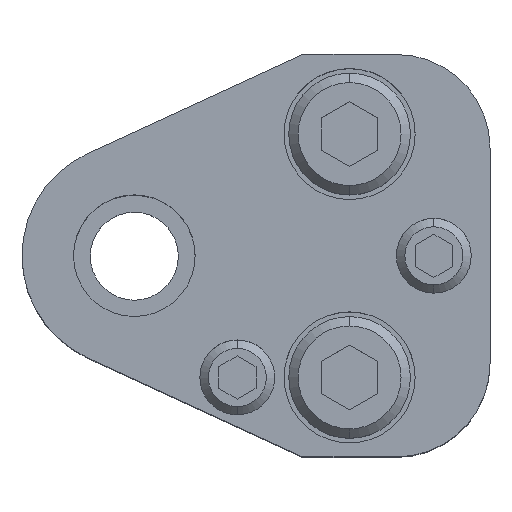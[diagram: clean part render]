
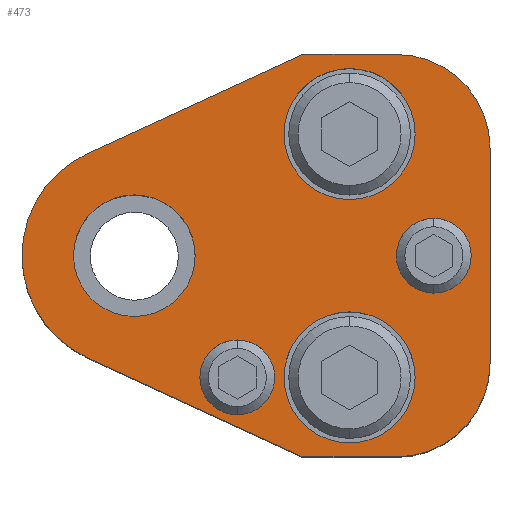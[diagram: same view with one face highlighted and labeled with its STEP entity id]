
A CAD part, top view. The second image highlights one B-rep face of the part: STEP entity #473.
In plain terms, the highlighted planar face has unit normal (0, 0, 1).
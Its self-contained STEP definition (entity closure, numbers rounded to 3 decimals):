
#223=FACE_BOUND('',#843,.T.);
#224=FACE_BOUND('',#844,.T.);
#225=FACE_BOUND('',#845,.T.);
#226=FACE_BOUND('',#846,.T.);
#227=FACE_BOUND('',#847,.T.);
#228=FACE_BOUND('',#848,.T.);
#273=CIRCLE('',#2646,12.);
#275=CIRCLE('',#2651,10.);
#277=CIRCLE('',#2655,10.);
#287=CIRCLE('',#2672,7.);
#289=CIRCLE('',#2675,7.);
#291=CIRCLE('',#2679,7.);
#293=CIRCLE('',#2682,7.);
#300=CIRCLE('',#2693,6.5);
#302=CIRCLE('',#2696,6.5);
#321=CIRCLE('',#2730,4.);
#322=CIRCLE('',#2731,4.);
#323=CIRCLE('',#2732,4.);
#324=CIRCLE('',#2733,4.);
#473=ADVANCED_FACE('',(#223,#224,#225,#226,#227,#228),#591,.T.);
#591=PLANE('',#2734);
#843=EDGE_LOOP('',(#1241,#1242,#1243,#1244,#1245,#1246,#1247,#1248));
#844=EDGE_LOOP('',(#1249,#1250));
#845=EDGE_LOOP('',(#1251,#1252));
#846=EDGE_LOOP('',(#1253,#1254));
#847=EDGE_LOOP('',(#1255,#1256));
#848=EDGE_LOOP('',(#1257,#1258));
#1241=ORIENTED_EDGE('',*,*,#1934,.T.);
#1242=ORIENTED_EDGE('',*,*,#1938,.T.);
#1243=ORIENTED_EDGE('',*,*,#1941,.T.);
#1244=ORIENTED_EDGE('',*,*,#1944,.T.);
#1245=ORIENTED_EDGE('',*,*,#1947,.T.);
#1246=ORIENTED_EDGE('',*,*,#1950,.T.);
#1247=ORIENTED_EDGE('',*,*,#1953,.T.);
#1248=ORIENTED_EDGE('',*,*,#1956,.T.);
#1249=ORIENTED_EDGE('',*,*,#2021,.F.);
#1250=ORIENTED_EDGE('',*,*,#2022,.F.);
#1251=ORIENTED_EDGE('',*,*,#2023,.F.);
#1252=ORIENTED_EDGE('',*,*,#2024,.F.);
#1253=ORIENTED_EDGE('',*,*,#1979,.F.);
#1254=ORIENTED_EDGE('',*,*,#1975,.F.);
#1255=ORIENTED_EDGE('',*,*,#1973,.F.);
#1256=ORIENTED_EDGE('',*,*,#1969,.F.);
#1257=ORIENTED_EDGE('',*,*,#1989,.T.);
#1258=ORIENTED_EDGE('',*,*,#1992,.T.);
#1688=VERTEX_POINT('',#3846);
#1689=VERTEX_POINT('',#3848);
#1692=VERTEX_POINT('',#3855);
#1694=VERTEX_POINT('',#3861);
#1696=VERTEX_POINT('',#3867);
#1698=VERTEX_POINT('',#3873);
#1700=VERTEX_POINT('',#3879);
#1702=VERTEX_POINT('',#3885);
#1711=VERTEX_POINT('',#3917);
#1712=VERTEX_POINT('',#3918);
#1715=VERTEX_POINT('',#3930);
#1716=VERTEX_POINT('',#3931);
#1725=VERTEX_POINT('',#3958);
#1726=VERTEX_POINT('',#3960);
#1745=VERTEX_POINT('',#4027);
#1746=VERTEX_POINT('',#4028);
#1747=VERTEX_POINT('',#4031);
#1748=VERTEX_POINT('',#4032);
#1934=EDGE_CURVE('',#1689,#1688,#273,.T.);
#1938=EDGE_CURVE('',#1688,#1692,#2266,.T.);
#1941=EDGE_CURVE('',#1692,#1694,#2269,.T.);
#1944=EDGE_CURVE('',#1694,#1696,#275,.T.);
#1947=EDGE_CURVE('',#1696,#1698,#2273,.T.);
#1950=EDGE_CURVE('',#1698,#1700,#277,.T.);
#1953=EDGE_CURVE('',#1700,#1702,#2277,.T.);
#1956=EDGE_CURVE('',#1702,#1689,#2280,.T.);
#1969=EDGE_CURVE('',#1711,#1712,#287,.T.);
#1973=EDGE_CURVE('',#1712,#1711,#289,.T.);
#1975=EDGE_CURVE('',#1715,#1716,#291,.T.);
#1979=EDGE_CURVE('',#1716,#1715,#293,.T.);
#1989=EDGE_CURVE('',#1726,#1725,#300,.T.);
#1992=EDGE_CURVE('',#1725,#1726,#302,.T.);
#2021=EDGE_CURVE('',#1745,#1746,#321,.T.);
#2022=EDGE_CURVE('',#1746,#1745,#322,.T.);
#2023=EDGE_CURVE('',#1747,#1748,#323,.T.);
#2024=EDGE_CURVE('',#1748,#1747,#324,.T.);
#2266=LINE('',#3856,#2458);
#2269=LINE('',#3862,#2461);
#2273=LINE('',#3874,#2465);
#2277=LINE('',#3886,#2469);
#2280=LINE('',#3890,#2472);
#2458=VECTOR('',#3056,1.);
#2461=VECTOR('',#3061,1.);
#2465=VECTOR('',#3073,1.);
#2469=VECTOR('',#3085,1.);
#2472=VECTOR('',#3090,1.);
#2646=AXIS2_PLACEMENT_3D('',#3847,#3048,#3049);
#2651=AXIS2_PLACEMENT_3D('',#3868,#3066,#3067);
#2655=AXIS2_PLACEMENT_3D('',#3880,#3078,#3079);
#2672=AXIS2_PLACEMENT_3D('',#3916,#3121,#3122);
#2675=AXIS2_PLACEMENT_3D('',#3925,#3129,#3130);
#2679=AXIS2_PLACEMENT_3D('',#3929,#3137,#3138);
#2682=AXIS2_PLACEMENT_3D('',#3938,#3145,#3146);
#2693=AXIS2_PLACEMENT_3D('',#3959,#3170,#3171);
#2696=AXIS2_PLACEMENT_3D('',#3964,#3177,#3178);
#2730=AXIS2_PLACEMENT_3D('',#4026,#3255,#3256);
#2731=AXIS2_PLACEMENT_3D('',#4029,#3257,#3258);
#2732=AXIS2_PLACEMENT_3D('',#4030,#3259,#3260);
#2733=AXIS2_PLACEMENT_3D('',#4033,#3261,#3262);
#2734=AXIS2_PLACEMENT_3D('',#4034,#3263,#3264);
#3048=DIRECTION('',(0.,0.,1.));
#3049=DIRECTION('',(0.,1.,0.));
#3056=DIRECTION('',(0.908,-0.418,0.));
#3061=DIRECTION('',(1.,0.,0.));
#3066=DIRECTION('',(0.,0.,1.));
#3067=DIRECTION('',(-0.707,0.707,0.));
#3073=DIRECTION('',(0.,1.,0.));
#3078=DIRECTION('',(0.,0.,1.));
#3079=DIRECTION('',(-0.707,-0.707,0.));
#3085=DIRECTION('',(-1.,0.,0.));
#3090=DIRECTION('',(-0.908,-0.418,0.));
#3121=DIRECTION('',(0.,0.,1.));
#3122=DIRECTION('',(-1.,0.,0.));
#3129=DIRECTION('',(0.,0.,1.));
#3130=DIRECTION('',(1.,0.,0.));
#3137=DIRECTION('',(0.,0.,1.));
#3138=DIRECTION('',(-1.,0.,0.));
#3145=DIRECTION('',(0.,0.,1.));
#3146=DIRECTION('',(1.,0.,0.));
#3170=DIRECTION('',(0.,0.,-1.));
#3171=DIRECTION('',(-1.,0.,0.));
#3177=DIRECTION('',(0.,0.,-1.));
#3178=DIRECTION('',(1.,0.,0.));
#3255=DIRECTION('',(0.,0.,1.));
#3256=DIRECTION('',(1.,0.,0.));
#3257=DIRECTION('',(0.,0.,1.));
#3258=DIRECTION('',(-1.,0.,0.));
#3259=DIRECTION('',(0.,0.,1.));
#3260=DIRECTION('',(1.,0.,0.));
#3261=DIRECTION('',(0.,0.,1.));
#3262=DIRECTION('',(-1.,0.,0.));
#3263=DIRECTION('',(0.,0.,1.));
#3264=DIRECTION('',(0.908,0.418,0.));
#3846=CARTESIAN_POINT('',(-5.019,-10.9,35.));
#3847=CARTESIAN_POINT('',(0.,0.,35.));
#3848=CARTESIAN_POINT('',(-5.019,10.9,35.));
#3855=CARTESIAN_POINT('',(18.,-21.5,35.));
#3856=CARTESIAN_POINT('',(18.,-21.5,35.));
#3861=CARTESIAN_POINT('',(28.,-21.5,35.));
#3862=CARTESIAN_POINT('',(18.,-21.5,35.));
#3867=CARTESIAN_POINT('',(38.,-11.5,35.));
#3868=CARTESIAN_POINT('',(28.,-11.5,35.));
#3873=CARTESIAN_POINT('',(38.,11.5,35.));
#3874=CARTESIAN_POINT('',(38.,-11.5,35.));
#3879=CARTESIAN_POINT('',(28.,21.5,35.));
#3880=CARTESIAN_POINT('',(28.,11.5,35.));
#3885=CARTESIAN_POINT('',(18.,21.5,35.));
#3886=CARTESIAN_POINT('',(18.,21.5,35.));
#3890=CARTESIAN_POINT('',(18.,21.5,35.));
#3916=CARTESIAN_POINT('',(23.,13.,35.));
#3917=CARTESIAN_POINT('',(23.,6.,35.));
#3918=CARTESIAN_POINT('',(23.,20.,35.));
#3925=CARTESIAN_POINT('',(23.,13.,35.));
#3929=CARTESIAN_POINT('',(23.,-13.,35.));
#3930=CARTESIAN_POINT('',(23.,-20.,35.));
#3931=CARTESIAN_POINT('',(23.,-6.,35.));
#3938=CARTESIAN_POINT('',(23.,-13.,35.));
#3958=CARTESIAN_POINT('',(0.,-6.5,35.));
#3959=CARTESIAN_POINT('',(0.,0.,35.));
#3960=CARTESIAN_POINT('',(0.,6.5,35.));
#3964=CARTESIAN_POINT('',(0.,0.,35.));
#4026=CARTESIAN_POINT('',(32.,0.,35.));
#4027=CARTESIAN_POINT('',(32.,4.,35.));
#4028=CARTESIAN_POINT('',(32.,-4.,35.));
#4029=CARTESIAN_POINT('',(32.,0.,35.));
#4030=CARTESIAN_POINT('',(11.,-13.,35.));
#4031=CARTESIAN_POINT('',(11.,-9.,35.));
#4032=CARTESIAN_POINT('',(11.,-17.,35.));
#4033=CARTESIAN_POINT('',(11.,-13.,35.));
#4034=CARTESIAN_POINT('',(-5.019,10.9,35.));
